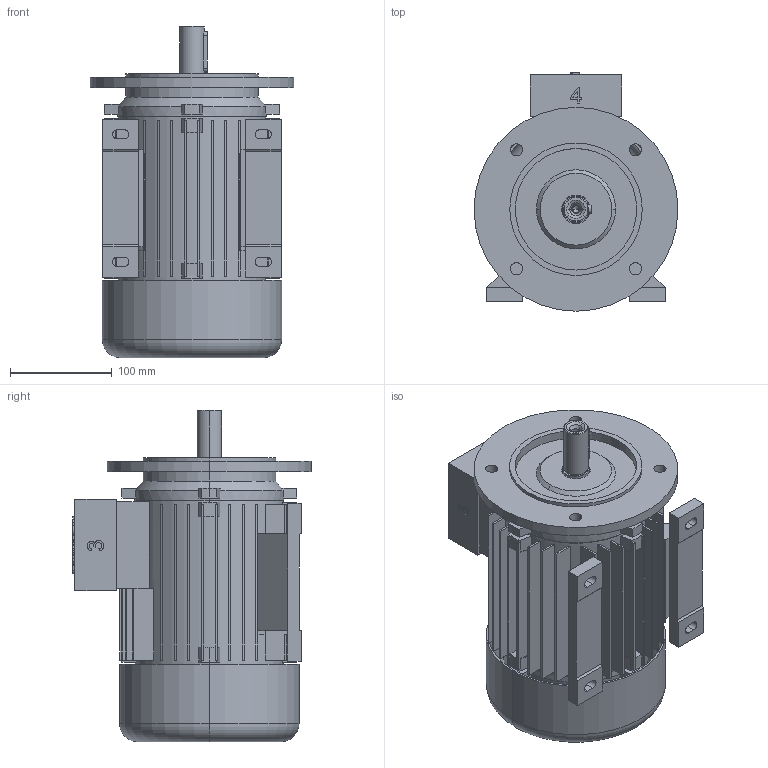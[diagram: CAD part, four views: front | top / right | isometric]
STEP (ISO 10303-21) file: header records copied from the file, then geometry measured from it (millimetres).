
FILE_DESCRIPTION (( 'STEP AP203' ), '1' );
FILE_NAME ('5AZ 90L config.STEP', '2018-07-03T07:18:30', ( '' ), ( '' ), 'SwSTEP 2.0', 'SolidWorks 2018', '' );
FILE_SCHEMA (( 'CONFIG_CONTROL_DESIGN' ));
Length unit declared in the file: millimetre
Products named in the file (1): 5AZ 90L config
Bounding box: 200 x 234 x 325 mm (x, y, z)
Volume: 2180129.7 mm3; surface area: 696761.7 mm2
Topology: 9 solids, 9 shells, 575 faces, 1492 edges, 983 vertices
Faces by surface type: plane 376, cylinder 139, bspline 34, cone 22, torus 4
Entity records: 19082 total; most frequent: CARTESIAN_POINT 4771, ORIENTED_EDGE 2980, DIRECTION 2910, EDGE_CURVE 1490, VERTEX_POINT 983, LINE 978, VECTOR 978, AXIS2_PLACEMENT_3D 966
